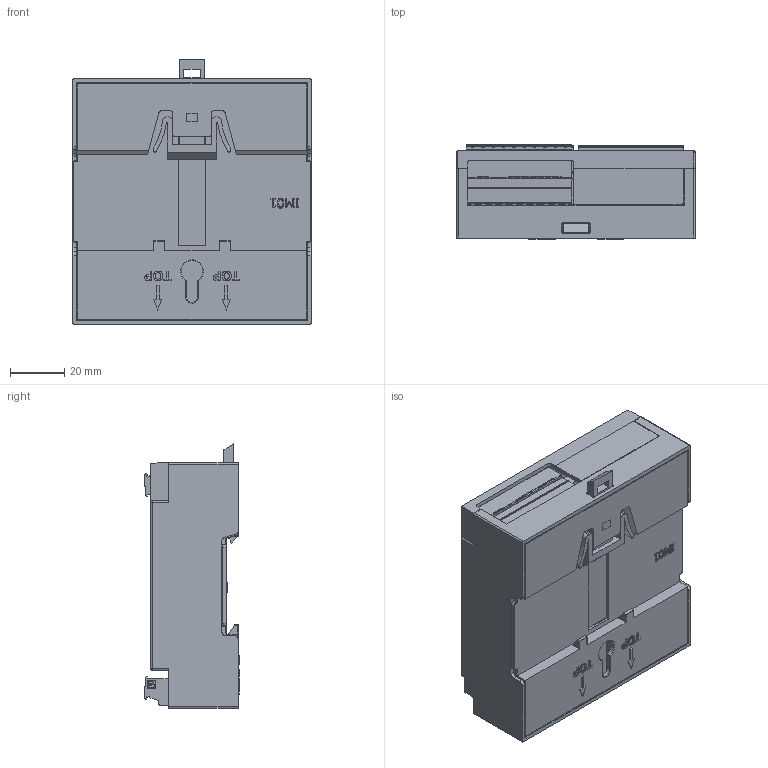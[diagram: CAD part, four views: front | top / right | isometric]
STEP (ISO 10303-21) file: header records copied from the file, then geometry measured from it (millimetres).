
FILE_DESCRIPTION(/* description */ (''),/* implementation_level */ '2;1');
FILE_NAME(/* name */ 'XP201_stp_stp.stp',/* time_stamp */ '2023-02-28T10:36:58+05:00',/* author */ (''),/* organization */ (''),/* preprocessor_version */ 'ST-DEVELOPER v16.7',/* originating_system */ 'SIEMENS PLM Software NX 1872',/* authorisation */ '');
FILE_SCHEMA (('AUTOMOTIVE_DESIGN { 1 0 10303 214 3 1 1 1 }'));
Products named in the file (1): Admi8D98C52Brxqs
Bounding box: 87.7 x 34.65 x 97.41 mm (x, y, z)
Volume: 62476.4 mm3; surface area: 89673.7 mm2
Topology: 116 solids, 116 shells, 5597 faces, 14437 edges, 9346 vertices
Faces by surface type: plane 3700, cylinder 1120, extrusion 546, sphere 97, cone 60, revolution 30, bspline 24, torus 20
Full cylindrical faces by diameter (mm): 1.5 x16, 1.6 x3, 2 x1, 2.8 x3, 2.9 x3
Entity records: 186245 total; most frequent: CARTESIAN_POINT 54787, ORIENTED_EDGE 28482, DIRECTION 22603, EDGE_CURVE 14241, VECTOR 10679, LINE 10133, VERTEX_POINT 9328, EDGE_LOOP 6501
